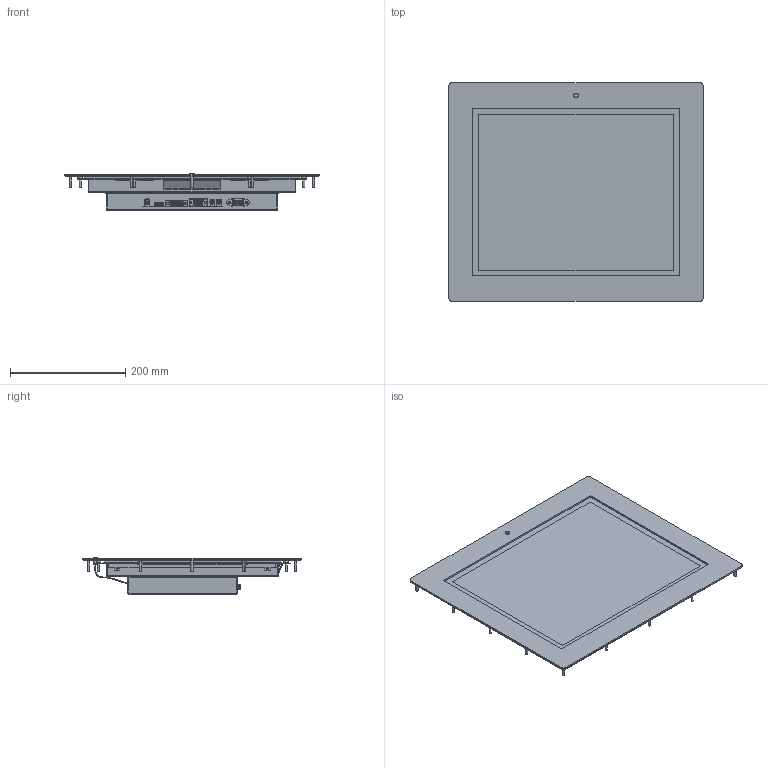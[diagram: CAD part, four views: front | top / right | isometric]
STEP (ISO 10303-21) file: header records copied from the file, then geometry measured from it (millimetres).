
FILE_DESCRIPTION (( 'STEP AP203' ), '1' );
FILE_NAME ('Z170-MON Assembly.STEP', '2025-11-28T10:31:28', ( '' ), ( '' ), 'SwSTEP 2.0', 'SolidWorks 2025', '' );
FILE_SCHEMA (( 'CONFIG_CONTROL_DESIGN' ));
Length unit declared in the file: millimetre
Products named in the file (26): PMZ-17-10 Panelmount; Led driver 24; ITD-Lichtsensor; ITD17KITT5HB01 display+sensor; Z170-MON Assembly; BC-ITD-10 Backcover; Led driver 21,5; AD-kit 15-24''''; DVI-I_默认; sn sticker^TFT-ITD-00 Backcover assembly; ITD-IO Input sticker; SO-3,5M3-6-ZI Inpersafstandsteun; Afstandbus 4,2x8x5; Led driver 15-19; TFT-ITD-00 Backcover assembly_Monitor componenten; HDMI_soldered; PKZ-170-10 Pakking; MPP-170-10 Mounting plate; OSD-sticker; USB panelmount_Défaut; MONB170-00 Assembly; VGA D-Sub right-angle; Essentra 465907
Assembly tree (61 placements, depth 4):
  Z170-MON Assembly
    MONB170-00 Assembly
      MPP-170-10 Mounting plate
        MPP-170-10 Mounting plate
        SO-3,5M3-6-ZI Inpersafstandsteun  x12
      ITD17KITT5HB01 display+sensor
    TFT-ITD-00 Backcover assembly_Monitor componenten
      BC-ITD-10 Backcover
        BC-ITD-10 Backcover
        SO-3,5M3-6-ZI Inpersafstandsteun  x18
      AD-kit 15-24''''
        AD-kit 15-24''''
        DVI-I_默认
        HDMI_soldered
        VGA D-Sub right-angle
      USB panelmount_Défaut
      sn sticker^TFT-ITD-00 Backcover assembly
      Led driver 15-19
      Led driver 21,5
      Led driver 24
      ITD-IO Input sticker
      OSD-sticker
    PMZ-17-10 Panelmount
    PKZ-170-10 Pakking
    ITD-Lichtsensor
    Essentra 465907
    Afstandbus 4,2x8x5  x8
Bounding box: 442 x 380 x 64 mm (x, y, z)
Volume: 488316.4 mm3; surface area: 950903.6 mm2
Topology: 57 solids, 68 shells, 4205 faces, 11601 edges, 7703 vertices
Faces by surface type: plane 2986, cylinder 763, bspline 386, cone 46, torus 20, sphere 4
Full cylindrical faces by diameter (mm): 0.65 x15, 0.9 x15, 1 x1, 1.5 x1, 1.68 x2, 2.5 x30, 2.9 x2, 3 x4, 3.16 x2, 3.33 x2, 3.5 x29, 3.73 x2, 3.76 x2, 4 x28, 4.2 x8, 4.5 x6, 4.69 x2, 5 x12, 5.4 x30, 5.49 x30, 5.5 x4, 6 x19, 6.5 x2, 8 x16, 8.5 x1, 10 x1
Entity records: 145806 total; most frequent: CARTESIAN_POINT 45002, ORIENTED_EDGE 20371, DIRECTION 18100, EDGE_CURVE 10587, VECTOR 8176, LINE 8176, VERTEX_POINT 7171, AXIS2_PLACEMENT_3D 4962
